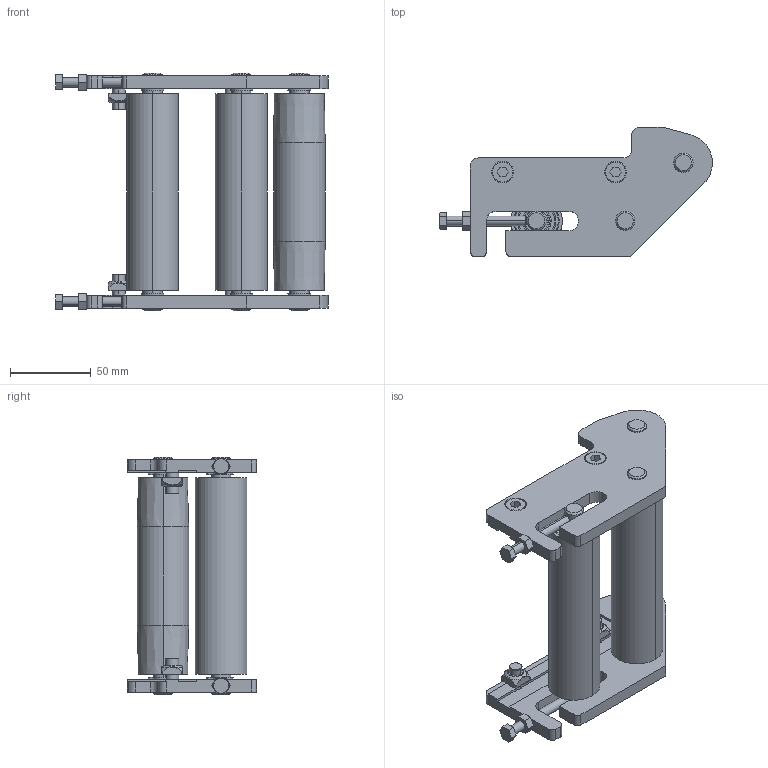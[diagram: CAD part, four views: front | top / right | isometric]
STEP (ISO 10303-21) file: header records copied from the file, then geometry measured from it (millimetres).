
FILE_DESCRIPTION (( 'STEP AP214' ), '1' );
FILE_NAME ('084.030.KF.100.STEP', '2019-08-06T09:11:43', ( '' ), ( '' ), 'SwSTEP 2.0', 'SolidWorks 2018', '' );
FILE_SCHEMA (( 'AUTOMOTIVE_DESIGN' ));
Length unit declared in the file: millimetre
Products named in the file (12): 084.801.034.100; VITI TE UNI 5739_M6x50 UNI 5739; DADI ESAGONALI NORMALI UNI 5588_M6 UNI 5588; 084.302.000 DADI ALUSIC 13x13-1_084.302.004; 084.802.036; 084.801.033.100; 084.030.KF.100; 084.301.000 VITI ALUSIC-2_084.301.002; 356.159.001 (sx); Circlip DIN 471 - 12 x 1_Circlip DIN 471 - 12 x 1; 084.801.035.100_084.030.104; 356.159.001 (dx)
Assembly tree (38 placements, depth 2):
  084.030.KF.100
    356.159.001 (dx)
    356.159.001 (sx)
    084.801.033.100
    084.801.034.100  x3
    084.801.035.100_084.030.104  x2
    084.802.036  x6
    DADI ESAGONALI NORMALI UNI 5588_M6 UNI 5588  x2
    VITI TE UNI 5739_M6x50 UNI 5739  x2
    084.301.000 VITI ALUSIC-2_084.301.002  x4
    084.302.000 DADI ALUSIC 13x13-1_084.302.004  x4
    Circlip DIN 471 - 12 x 1_Circlip DIN 471 - 12 x 1  x12
Bounding box: 168.93 x 80 x 147.5 mm (x, y, z)
Volume: 296411.1 mm3; surface area: 163489.9 mm2
Topology: 44 solids, 50 shells, 1034 faces, 2434 edges, 1550 vertices
Faces by surface type: cylinder 486, plane 320, torus 140, cone 72, bspline 16
Entity records: 10697 total; most frequent: CARTESIAN_POINT 2200, DIRECTION 1768, ORIENTED_EDGE 1544, EDGE_CURVE 772, AXIS2_PLACEMENT_3D 708, VERTEX_POINT 494, EDGE_LOOP 372, CIRCLE 352
